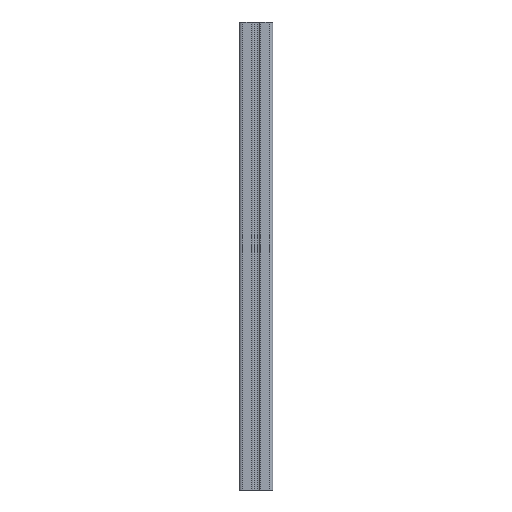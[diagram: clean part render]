
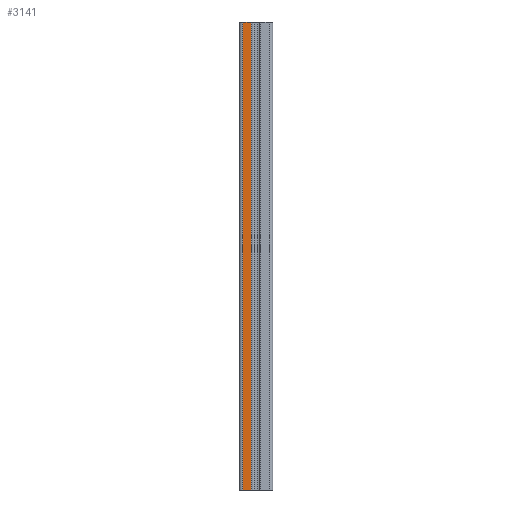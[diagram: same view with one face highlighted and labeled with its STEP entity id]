
A CAD part, front view. The second image highlights one B-rep face of the part: STEP entity #3141.
In plain terms, the highlighted planar face has unit normal (0, -1, 0).
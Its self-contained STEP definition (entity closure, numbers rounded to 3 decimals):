
#2039=EDGE_CURVE('',#2133,#4227,#4931,.T.);
#2133=VERTEX_POINT('',#5032);
#2833=EDGE_CURVE('',#3667,#4227,#5786,.T.);
#3141=ADVANCED_FACE('',(#6126),#6127,.T.);
#3503=EDGE_CURVE('',#4149,#2133,#6513,.T.);
#3667=VERTEX_POINT('',#6694);
#4117=EDGE_CURVE('',#3667,#4149,#7192,.T.);
#4149=VERTEX_POINT('',#7228);
#4227=VERTEX_POINT('',#7309);
#4931=LINE('',#8238,#8239);
#5032=CARTESIAN_POINT('',(14.5,0.0,560.0));
#5786=LINE('',#9413,#9414);
#6126=FACE_OUTER_BOUND('',#9881,.T.);
#6127=PLANE('',#9882);
#6513=LINE('',#10423,#10424);
#6694=CARTESIAN_POINT('',(4.0,0.0,0.0));
#7192=LINE('',#11332,#11333);
#7228=CARTESIAN_POINT('',(14.5,0.0,0.0));
#7309=CARTESIAN_POINT('',(4.0,0.0,560.0));
#8238=CARTESIAN_POINT('',(4.0,0.0,560.0));
#8239=VECTOR('',#12269,1.0);
#9413=CARTESIAN_POINT('',(4.0,0.0,0.0));
#9414=VECTOR('',#13151,1.0);
#9881=EDGE_LOOP('',(#13718,#13719,#13720,#13721));
#9882=AXIS2_PLACEMENT_3D('',#13722,#13723,#13724);
#10423=CARTESIAN_POINT('',(14.5,0.0,0.0));
#10424=VECTOR('',#14084,1.0);
#11332=CARTESIAN_POINT('',(4.0,0.0,0.0));
#11333=VECTOR('',#15007,1.0);
#12269=DIRECTION('',(-1.0,-0.0,-0.0));
#13151=DIRECTION('',(0.0,0.0,1.0));
#13718=ORIENTED_EDGE('',*,*,#3503,.T.);
#13719=ORIENTED_EDGE('',*,*,#2039,.T.);
#13720=ORIENTED_EDGE('',*,*,#2833,.F.);
#13721=ORIENTED_EDGE('',*,*,#4117,.T.);
#13722=CARTESIAN_POINT('',(36.0,0.0,0.0));
#13723=DIRECTION('',(0.0,-1.0,0.0));
#13724=DIRECTION('',(1.0,0.0,0.0));
#14084=DIRECTION('',(0.0,0.0,1.0));
#15007=DIRECTION('',(1.0,0.0,0.0));
